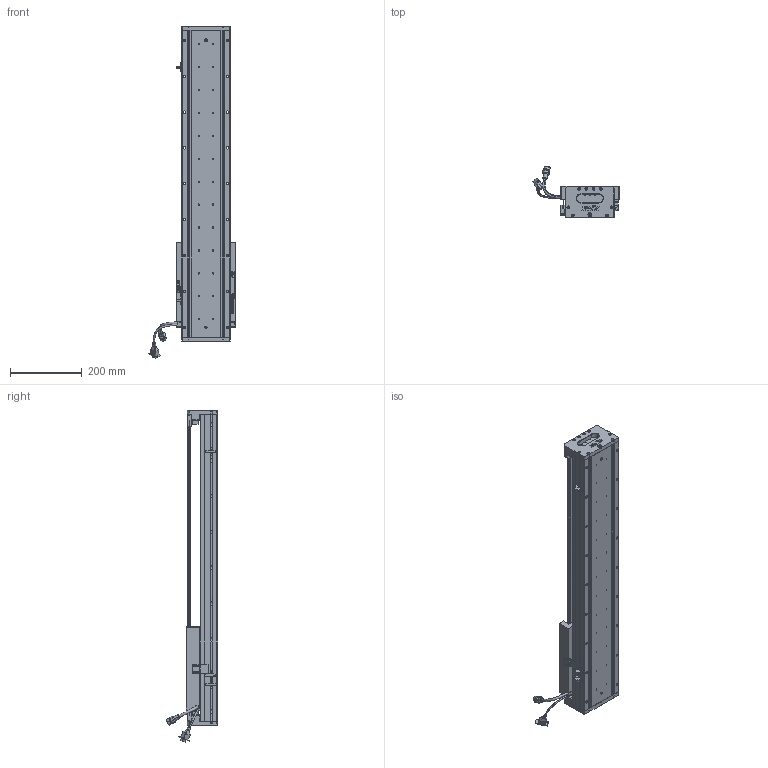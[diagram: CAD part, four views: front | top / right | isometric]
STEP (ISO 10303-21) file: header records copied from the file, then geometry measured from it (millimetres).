
FILE_DESCRIPTION (( 'STEP AP203' ), '1' );
FILE_NAME ('Z3-RY140D-1-L500-B-K.SLDASM_0550.step', '2021-05-17T08:00:22', ( '盈信电脑' ), ( '东莞市道滘镇水果街19号' ), 'SwSTEP 2.0', 'SolidWorks 2016', '' );
FILE_SCHEMA (( 'CONFIG_CONTROL_DESIGN' ));
Length unit declared in the file: millimetre
Products named in the file (36): Z-140詩湍傷裔啣; PBU_SHEET; SCREW-M1.6; HARNESS; SHIELDPLATE; SCALE-Part-1; LABEL; SCREW-M1.6-2; Z3-RY140-L500直线电机模组底座_0550; HARNESS-Part-2; HOLDER0; 080黍杅芛假蚾釱21遴; HARNESS-Part-1; SCREW-M1.7-1; Z-RY140感应器672光电感应片; SCREW-M1.7; SCREW-M1.6-1; COVER; 榋妏寠巭燃_暯_M2_2; SCALE-Part-2; LABEL-Part-1; 140雄赽晤鎢ん堤盄; SEAL-Part-1; 140-Z-臏賑輸盄裔(21遴); Z3-RY140D-1-L500-B-K.SLDASM_0550; COVER-Part-1; Z-RY140詩湍狟揤裔; Z-RY140詩湍奻揤裔; SCALE; 140蚥薯蝶輸; PSLH080_PSLF2; Z3-RY140圉猾敕臏賑輸(21遴); Z3-RY140-L500詩湍100mm遵_0550; SCREW-M1.6-3; 覜茼ん672; SEAL
Assembly tree (41 placements, depth 4):
  Z3-RY140D-1-L500-B-K.SLDASM_0550
    Z3-RY140-L500直线电机模组底座_0550
    Z-RY140感应器672光电感应片
    Z3-RY140圉猾敕臏賑輸(21遴)
    覜茼ん672  x3
    Z3-RY140-L500詩湍100mm遵_0550
    PSLH080_PSLF2
      SCALE
        SCALE-Part-1
        SCALE-Part-2
      HARNESS
        HARNESS-Part-1
        HARNESS-Part-2
      LABEL
        LABEL-Part-1
      COVER
        COVER-Part-1
      SEAL
        SEAL-Part-1
      榋妏寠巭燃_暯_M2_2
      SHIELDPLATE
      SCREW-M1.7
      SCREW-M1.7-1
      PBU_SHEET
      SCREW-M1.6
      SCREW-M1.6-1
      SCREW-M1.6-2
      SCREW-M1.6-3
      HOLDER0
    080黍杅芛假蚾釱21遴
    140-Z-臏賑輸盄裔(21遴)
    Z-140詩湍傷裔啣  x2
    Z-RY140詩湍狟揤裔  x2
    Z-RY140詩湍奻揤裔  x2
    140蚥薯蝶輸  x2
    140雄赽晤鎢ん堤盄
Bounding box: 239.84 x 143.88 x 925.88 mm (x, y, z)
Volume: 3619287.5 mm3; surface area: 931284.1 mm2
Topology: 36 solids, 36 shells, 2888 faces, 7592 edges, 4805 vertices
Faces by surface type: cylinder 1346, plane 1130, cone 290, torus 69, bspline 53
Entity records: 84048 total; most frequent: CARTESIAN_POINT 21013, ORIENTED_EDGE 12328, DIRECTION 12268, EDGE_CURVE 6164, AXIS2_PLACEMENT_3D 4508, VERTEX_POINT 3973, LINE 3252, VECTOR 3252
